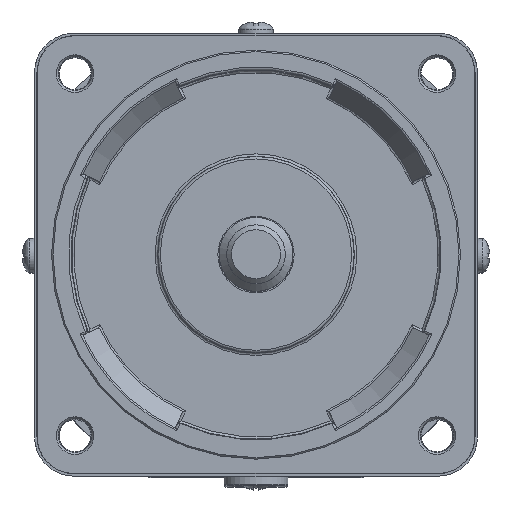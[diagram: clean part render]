
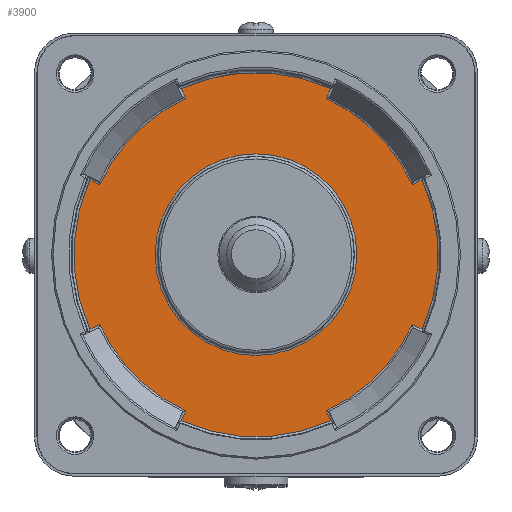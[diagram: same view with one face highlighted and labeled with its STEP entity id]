
A CAD part, top view. The second image highlights one B-rep face of the part: STEP entity #3900.
In plain terms, the highlighted planar face has unit normal (0, 0, 1).
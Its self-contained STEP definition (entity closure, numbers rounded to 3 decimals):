
#45 = EDGE_CURVE ( 'NONE', #7478, #8476, #8223, .T. ) ;
#128 = AXIS2_PLACEMENT_3D ( 'NONE', #3813, #13419, #12230 ) ;
#189 = DIRECTION ( 'NONE',  ( 0.906, 0.423, 0. ) ) ;
#198 = CARTESIAN_POINT ( 'NONE',  ( 15.395, 34.198, -2. ) ) ;
#305 = AXIS2_PLACEMENT_3D ( 'NONE', #6973, #12887, #927 ) ;
#319 = EDGE_CURVE ( 'NONE', #11004, #11004, #1700, .T. ) ;
#479 = DIRECTION ( 'NONE',  ( 1., 0., 0. ) ) ;
#556 = DIRECTION ( 'NONE',  ( 0., 0., 1. ) ) ;
#613 = CARTESIAN_POINT ( 'NONE',  ( 0., 0., -2. ) ) ;
#632 = CARTESIAN_POINT ( 'NONE',  ( 0.453, 0.211, -2. ) ) ;
#654 = ORIENTED_EDGE ( 'NONE', *, *, #3919, .T. ) ;
#799 = CARTESIAN_POINT ( 'NONE',  ( -34.198, 15.395, -2. ) ) ;
#927 = DIRECTION ( 'NONE',  ( 1., 0., 0. ) ) ;
#997 = CARTESIAN_POINT ( 'NONE',  ( 0., 0., -2. ) ) ;
#1004 = ORIENTED_EDGE ( 'NONE', *, *, #14047, .T. ) ;
#1298 = CARTESIAN_POINT ( 'NONE',  ( -0.211, 0.453, -2. ) ) ;
#1429 = EDGE_CURVE ( 'NONE', #10404, #10415, #5994, .T. ) ;
#1593 = VERTEX_POINT ( 'NONE', #4295 ) ;
#1632 = CARTESIAN_POINT ( 'NONE',  ( -14.242, 31.725, -2. ) ) ;
#1700 = CIRCLE ( 'NONE', #5476, 20.491 ) ;
#1718 = EDGE_CURVE ( 'NONE', #4341, #10404, #3747, .T. ) ;
#1830 = DIRECTION ( 'NONE',  ( 1., 0., 0. ) ) ;
#1998 = AXIS2_PLACEMENT_3D ( 'NONE', #4271, #556, #479 ) ;
#2256 = EDGE_CURVE ( 'NONE', #9333, #12800, #12360, .T. ) ;
#2312 = DIRECTION ( 'NONE',  ( 0., 0., 1. ) ) ;
#2454 = CARTESIAN_POINT ( 'NONE',  ( 31.725, -14.242, -2. ) ) ;
#2564 = VERTEX_POINT ( 'NONE', #14058 ) ;
#2579 = ORIENTED_EDGE ( 'NONE', *, *, #6629, .T. ) ;
#2738 = ORIENTED_EDGE ( 'NONE', *, *, #319, .T. ) ;
#3191 = DIRECTION ( 'NONE',  ( 0., 0., 1. ) ) ;
#3202 = DIRECTION ( 'NONE',  ( 1., 0., 0. ) ) ;
#3357 = CARTESIAN_POINT ( 'NONE',  ( 0., 0., -2. ) ) ;
#3448 = DIRECTION ( 'NONE',  ( -0.423, -0.906, 0. ) ) ;
#3580 = CARTESIAN_POINT ( 'NONE',  ( 33.753, -15.188, -2. ) ) ;
#3593 = ORIENTED_EDGE ( 'NONE', *, *, #45, .T. ) ;
#3609 = ORIENTED_EDGE ( 'NONE', *, *, #8543, .T. ) ;
#3612 = ORIENTED_EDGE ( 'NONE', *, *, #1718, .T. ) ;
#3640 = VECTOR ( 'NONE', #189, 1000. ) ;
#3682 = AXIS2_PLACEMENT_3D ( 'NONE', #613, #3191, #7924 ) ;
#3747 = LINE ( 'NONE', #198, #5735 ) ;
#3750 = ORIENTED_EDGE ( 'NONE', *, *, #2256, .T. ) ;
#3813 = CARTESIAN_POINT ( 'NONE',  ( 0., 0., -2. ) ) ;
#3846 = CARTESIAN_POINT ( 'NONE',  ( 20.491, 0., -2. ) ) ;
#3900 = ADVANCED_FACE ( 'NONE', ( #4103, #7800 ), #12752, .T. ) ;
#3919 = EDGE_CURVE ( 'NONE', #4791, #1593, #15556, .T. ) ;
#4103 = FACE_OUTER_BOUND ( 'NONE', #7966, .T. ) ;
#4108 = DIRECTION ( 'NONE',  ( -0.906, -0.423, 0. ) ) ;
#4221 = CARTESIAN_POINT ( 'NONE',  ( -31.725, 14.242, -2. ) ) ;
#4271 = CARTESIAN_POINT ( 'NONE',  ( 0., 0., -2. ) ) ;
#4295 = CARTESIAN_POINT ( 'NONE',  ( -33.753, -15.188, -2. ) ) ;
#4341 = VERTEX_POINT ( 'NONE', #15325 ) ;
#4348 = VERTEX_POINT ( 'NONE', #3580 ) ;
#4551 = CARTESIAN_POINT ( 'NONE',  ( -15.188, 33.753, -2. ) ) ;
#4652 = CARTESIAN_POINT ( 'NONE',  ( 34.198, -15.395, -2. ) ) ;
#4791 = VERTEX_POINT ( 'NONE', #9783 ) ;
#4820 = ORIENTED_EDGE ( 'NONE', *, *, #10439, .T. ) ;
#4978 = LINE ( 'NONE', #6322, #10827 ) ;
#4985 = ORIENTED_EDGE ( 'NONE', *, *, #14012, .T. ) ;
#5342 = EDGE_CURVE ( 'NONE', #8476, #4348, #8124, .T. ) ;
#5363 = LINE ( 'NONE', #799, #14412 ) ;
#5413 = CARTESIAN_POINT ( 'NONE',  ( -31.725, -14.242, -2. ) ) ;
#5450 = ORIENTED_EDGE ( 'NONE', *, *, #10393, .T. ) ;
#5476 = AXIS2_PLACEMENT_3D ( 'NONE', #5599, #9301, #1830 ) ;
#5599 = CARTESIAN_POINT ( 'NONE',  ( 0., 0., -2. ) ) ;
#5735 = VECTOR ( 'NONE', #13432, 1000. ) ;
#5783 = DIRECTION ( 'NONE',  ( 1., 0., 0. ) ) ;
#5792 = DIRECTION ( 'NONE',  ( 0., 0., 1. ) ) ;
#5994 = CIRCLE ( 'NONE', #6757, 37.013 ) ;
#6322 = CARTESIAN_POINT ( 'NONE',  ( -0.453, -0.211, -2. ) ) ;
#6419 = LINE ( 'NONE', #1298, #3640 ) ;
#6629 = EDGE_CURVE ( 'NONE', #12800, #4341, #14264, .T. ) ;
#6757 = AXIS2_PLACEMENT_3D ( 'NONE', #8302, #2312, #7035 ) ;
#6847 = VERTEX_POINT ( 'NONE', #4221 ) ;
#6973 = CARTESIAN_POINT ( 'NONE',  ( 0., 0., -2. ) ) ;
#7017 = VERTEX_POINT ( 'NONE', #5413 ) ;
#7035 = DIRECTION ( 'NONE',  ( 1., 0., 0. ) ) ;
#7478 = VERTEX_POINT ( 'NONE', #10882 ) ;
#7631 = DIRECTION ( 'NONE',  ( 0.423, -0.906, 0. ) ) ;
#7633 = EDGE_LOOP ( 'NONE', ( #2738 ) ) ;
#7671 = CIRCLE ( 'NONE', #128, 34.775 ) ;
#7800 = FACE_BOUND ( 'NONE', #7633, .T. ) ;
#7924 = DIRECTION ( 'NONE',  ( 1., 0., 0. ) ) ;
#7966 = EDGE_LOOP ( 'NONE', ( #3593, #10494, #5450, #3750, #2579, #3612, #10479, #9731, #4820, #8037, #654, #4985, #1004, #13860, #11217, #3609 ) ) ;
#8037 = ORIENTED_EDGE ( 'NONE', *, *, #11063, .T. ) ;
#8124 = LINE ( 'NONE', #4652, #10855 ) ;
#8223 = CIRCLE ( 'NONE', #3682, 34.775 ) ;
#8302 = CARTESIAN_POINT ( 'NONE',  ( 0., 0., -2. ) ) ;
#8359 = CIRCLE ( 'NONE', #10373, 34.775 ) ;
#8476 = VERTEX_POINT ( 'NONE', #2454 ) ;
#8485 = LINE ( 'NONE', #14241, #14995 ) ;
#8543 = EDGE_CURVE ( 'NONE', #14188, #7478, #4978, .T. ) ;
#8864 = CIRCLE ( 'NONE', #305, 37.013 ) ;
#8980 = CARTESIAN_POINT ( 'NONE',  ( 0., 0., -2. ) ) ;
#9030 = EDGE_CURVE ( 'NONE', #10415, #13648, #13625, .T. ) ;
#9301 = DIRECTION ( 'NONE',  ( 0., 0., -1. ) ) ;
#9333 = VERTEX_POINT ( 'NONE', #10352 ) ;
#9336 = DIRECTION ( 'NONE',  ( 0., 0., 1. ) ) ;
#9407 = AXIS2_PLACEMENT_3D ( 'NONE', #997, #9336, #5783 ) ;
#9535 = DIRECTION ( 'NONE',  ( 0.906, -0.423, 0. ) ) ;
#9731 = ORIENTED_EDGE ( 'NONE', *, *, #9030, .T. ) ;
#9783 = CARTESIAN_POINT ( 'NONE',  ( -33.753, 15.188, -2. ) ) ;
#10352 = CARTESIAN_POINT ( 'NONE',  ( 33.753, 15.188, -2. ) ) ;
#10373 = AXIS2_PLACEMENT_3D ( 'NONE', #3357, #5792, #3202 ) ;
#10393 = EDGE_CURVE ( 'NONE', #4348, #9333, #8864, .T. ) ;
#10404 = VERTEX_POINT ( 'NONE', #12733 ) ;
#10415 = VERTEX_POINT ( 'NONE', #4551 ) ;
#10439 = EDGE_CURVE ( 'NONE', #13648, #6847, #8359, .T. ) ;
#10479 = ORIENTED_EDGE ( 'NONE', *, *, #1429, .T. ) ;
#10494 = ORIENTED_EDGE ( 'NONE', *, *, #5342, .T. ) ;
#10744 = AXIS2_PLACEMENT_3D ( 'NONE', #15485, #14237, #10772 ) ;
#10772 = DIRECTION ( 'NONE',  ( 1., 0., 0. ) ) ;
#10827 = VECTOR ( 'NONE', #14576, 1000. ) ;
#10855 = VECTOR ( 'NONE', #9535, 1000. ) ;
#10882 = CARTESIAN_POINT ( 'NONE',  ( 14.242, -31.725, -2. ) ) ;
#11004 = VERTEX_POINT ( 'NONE', #3846 ) ;
#11063 = EDGE_CURVE ( 'NONE', #6847, #4791, #5363, .T. ) ;
#11217 = ORIENTED_EDGE ( 'NONE', *, *, #13081, .T. ) ;
#11267 = DIRECTION ( 'NONE',  ( -0.906, 0.423, 0. ) ) ;
#11602 = VECTOR ( 'NONE', #7631, 1000. ) ;
#12166 = CARTESIAN_POINT ( 'NONE',  ( 31.725, 14.242, -2. ) ) ;
#12230 = DIRECTION ( 'NONE',  ( 1., 0., 0. ) ) ;
#12360 = LINE ( 'NONE', #13637, #14765 ) ;
#12678 = CIRCLE ( 'NONE', #9407, 37.013 ) ;
#12733 = CARTESIAN_POINT ( 'NONE',  ( 15.188, 33.753, -2. ) ) ;
#12752 = PLANE ( 'NONE',  #13580 ) ;
#12755 = CARTESIAN_POINT ( 'NONE',  ( -14.242, -31.725, -2. ) ) ;
#12791 = CARTESIAN_POINT ( 'NONE',  ( 15.188, -33.753, -2. ) ) ;
#12800 = VERTEX_POINT ( 'NONE', #12166 ) ;
#12887 = DIRECTION ( 'NONE',  ( 0., 0., 1. ) ) ;
#13081 = EDGE_CURVE ( 'NONE', #2564, #14188, #12678, .T. ) ;
#13419 = DIRECTION ( 'NONE',  ( 0., 0., 1. ) ) ;
#13432 = DIRECTION ( 'NONE',  ( 0.423, 0.906, 0. ) ) ;
#13580 = AXIS2_PLACEMENT_3D ( 'NONE', #8980, #15034, #13948 ) ;
#13625 = LINE ( 'NONE', #632, #11602 ) ;
#13637 = CARTESIAN_POINT ( 'NONE',  ( 0.211, -0.453, -2. ) ) ;
#13648 = VERTEX_POINT ( 'NONE', #1632 ) ;
#13860 = ORIENTED_EDGE ( 'NONE', *, *, #15469, .T. ) ;
#13948 = DIRECTION ( 'NONE',  ( 1., 0., 0. ) ) ;
#14012 = EDGE_CURVE ( 'NONE', #1593, #7017, #6419, .T. ) ;
#14047 = EDGE_CURVE ( 'NONE', #7017, #15339, #7671, .T. ) ;
#14058 = CARTESIAN_POINT ( 'NONE',  ( -15.188, -33.753, -2. ) ) ;
#14188 = VERTEX_POINT ( 'NONE', #12791 ) ;
#14237 = DIRECTION ( 'NONE',  ( 0., 0., 1. ) ) ;
#14241 = CARTESIAN_POINT ( 'NONE',  ( -15.395, -34.198, -2. ) ) ;
#14264 = CIRCLE ( 'NONE', #10744, 34.775 ) ;
#14412 = VECTOR ( 'NONE', #11267, 1000. ) ;
#14576 = DIRECTION ( 'NONE',  ( -0.423, 0.906, 0. ) ) ;
#14765 = VECTOR ( 'NONE', #4108, 1000. ) ;
#14995 = VECTOR ( 'NONE', #3448, 1000. ) ;
#15034 = DIRECTION ( 'NONE',  ( 0., 0., 1. ) ) ;
#15325 = CARTESIAN_POINT ( 'NONE',  ( 14.242, 31.725, -2. ) ) ;
#15339 = VERTEX_POINT ( 'NONE', #12755 ) ;
#15469 = EDGE_CURVE ( 'NONE', #15339, #2564, #8485, .T. ) ;
#15485 = CARTESIAN_POINT ( 'NONE',  ( 0., 0., -2. ) ) ;
#15556 = CIRCLE ( 'NONE', #1998, 37.013 ) ;
